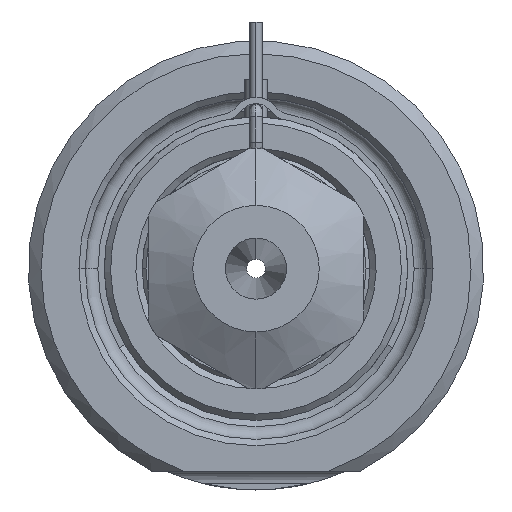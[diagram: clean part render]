
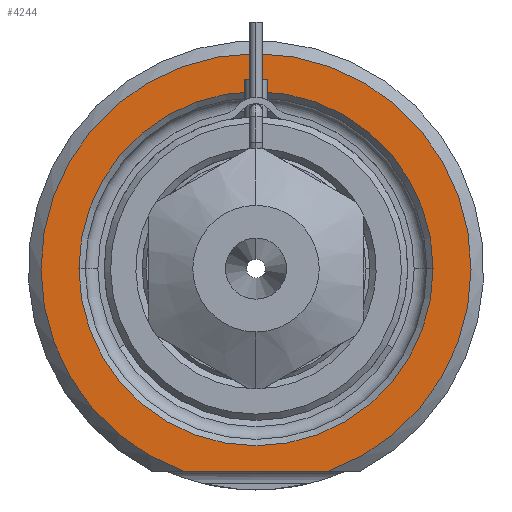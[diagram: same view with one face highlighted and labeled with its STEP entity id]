
A CAD part, front view. The second image highlights one B-rep face of the part: STEP entity #4244.
In plain terms, the highlighted planar face has unit normal (0, -1, 0).
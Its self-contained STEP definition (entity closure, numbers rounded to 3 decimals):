
#1325=CARTESIAN_POINT('',(0.,0.,0.));
#1326=DIRECTION('',(0.,-1.,0.));
#1327=DIRECTION('',(0.338,0.,-0.941));
#1328=AXIS2_PLACEMENT_3D('',#1325,#1326,#1327);
#1349=DIRECTION('',(1.,0.,0.));
#1350=VECTOR('',#1349,11.489);
#1351=CARTESIAN_POINT('',(-5.745,0.,-16.));
#1352=LINE('',#1351,#1350);
#1353=CARTESIAN_POINT('',(0.,0.,0.));
#1354=DIRECTION('',(0.,1.,0.));
#1355=DIRECTION('',(-1.,0.,0.));
#1356=AXIS2_PLACEMENT_3D('',#1353,#1354,#1355);
#1358=CARTESIAN_POINT('',(0.,0.,0.));
#1359=DIRECTION('',(0.,1.,0.));
#1360=DIRECTION('',(1.,0.,0.));
#1361=AXIS2_PLACEMENT_3D('',#1358,#1359,#1360);
#2243=CARTESIAN_POINT('',(-14.,0.,0.));
#2244=CARTESIAN_POINT('',(14.,0.,0.));
#2245=VERTEX_POINT('',#2243);
#2246=VERTEX_POINT('',#2244);
#2283=CARTESIAN_POINT('',(-5.745,0.,-16.));
#2284=CARTESIAN_POINT('',(5.745,0.,-16.));
#2285=VERTEX_POINT('',#2283);
#2286=VERTEX_POINT('',#2284);
#4229=CARTESIAN_POINT('',(0.,0.,0.));
#4230=DIRECTION('',(0.,-1.,0.));
#4231=DIRECTION('',(1.,0.,0.));
#4232=AXIS2_PLACEMENT_3D('',#4229,#4230,#4231);
#4233=PLANE('',#4232);
#4234=ORIENTED_EDGE('',*,*,#4161,.F.);
#4235=ORIENTED_EDGE('',*,*,#4221,.F.);
#4236=EDGE_LOOP('',(#4234,#4235));
#4237=FACE_OUTER_BOUND('',#4236,.F.);
#4239=ORIENTED_EDGE('',*,*,#4238,.F.);
#4241=ORIENTED_EDGE('',*,*,#4240,.F.);
#4242=EDGE_LOOP('',(#4239,#4241));
#4243=FACE_BOUND('',#4242,.F.);
#4244=ADVANCED_FACE('',(#4237,#4243),#4233,.T.);
#1329=CIRCLE('',#1328,17.);
#1357=CIRCLE('',#1356,14.);
#1362=CIRCLE('',#1361,14.);
#4161=EDGE_CURVE('',#2285,#2286,#1352,.T.);
#4221=EDGE_CURVE('',#2286,#2285,#1329,.T.);
#4238=EDGE_CURVE('',#2245,#2246,#1357,.T.);
#4240=EDGE_CURVE('',#2246,#2245,#1362,.T.);
